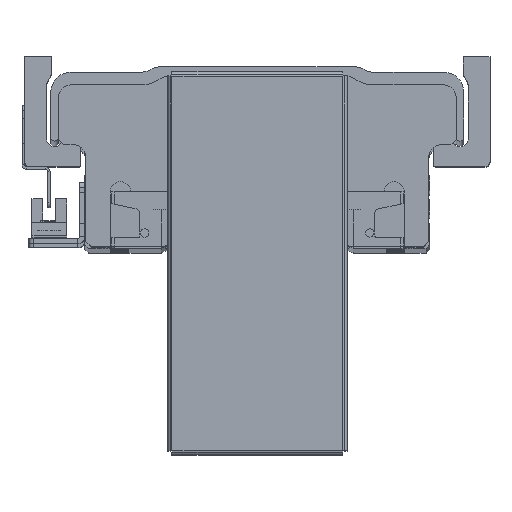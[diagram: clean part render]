
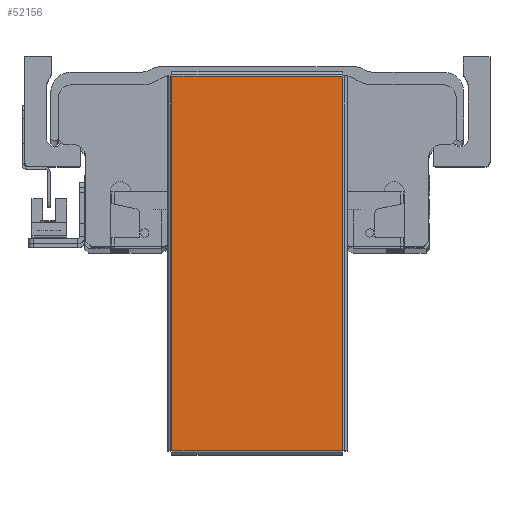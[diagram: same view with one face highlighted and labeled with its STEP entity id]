
A CAD part, top view. The second image highlights one B-rep face of the part: STEP entity #52156.
In plain terms, the highlighted planar face has unit normal (0, 0, 1) as drawn and (0, -1, 0) by its records, which use the part's own axes.
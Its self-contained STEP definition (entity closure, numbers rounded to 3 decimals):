
#3171 = AXIS2_PLACEMENT_3D ( 'NONE', #37420, #37428, #37445 ) ;
#8237 = CARTESIAN_POINT ( 'NONE',  ( 73.263, -1., -33.363 ) ) ;
#8245 = CARTESIAN_POINT ( 'NONE',  ( -73.263, -1., 33.363 ) ) ;
#8248 = CARTESIAN_POINT ( 'NONE',  ( 73.263, -1., 33.363 ) ) ;
#8264 = CARTESIAN_POINT ( 'NONE',  ( -73.263, -1., -33.363 ) ) ;
#19710 = EDGE_LOOP ( 'NONE', ( #33146, #33127, #33109, #33215 ) ) ;
#19838 = VERTEX_POINT ( 'NONE', #8264 ) ;
#19844 = VERTEX_POINT ( 'NONE', #8237 ) ;
#19879 = VERTEX_POINT ( 'NONE', #8245 ) ;
#19889 = VERTEX_POINT ( 'NONE', #8248 ) ;
#23672 = FACE_OUTER_BOUND ( 'NONE', #19710, .T. ) ;
#33109 = ORIENTED_EDGE ( 'NONE', *, *, #38259, .T. ) ;
#33127 = ORIENTED_EDGE ( 'NONE', *, *, #38257, .T. ) ;
#33146 = ORIENTED_EDGE ( 'NONE', *, *, #38325, .T. ) ;
#33215 = ORIENTED_EDGE ( 'NONE', *, *, #38366, .T. ) ;
#36144 = DIRECTION ( 'NONE',  ( 0., 0., -1. ) ) ;
#36152 = DIRECTION ( 'NONE',  ( 1., 0., 0. ) ) ;
#36167 = CARTESIAN_POINT ( 'NONE',  ( -73.263, -1., 33.393 ) ) ;
#36173 = CARTESIAN_POINT ( 'NONE',  ( -73.293, -1., -33.363 ) ) ;
#36227 = CARTESIAN_POINT ( 'NONE',  ( 73.293, -1., 33.363 ) ) ;
#36230 = DIRECTION ( 'NONE',  ( -1., 0., 0. ) ) ;
#36297 = CARTESIAN_POINT ( 'NONE',  ( 73.263, -1., -33.393 ) ) ;
#36304 = DIRECTION ( 'NONE',  ( 0., 0., 1. ) ) ;
#37420 = CARTESIAN_POINT ( 'NONE',  ( 0., -1., 0. ) ) ;
#37425 = PLANE ( 'NONE',  #3171 ) ;
#37428 = DIRECTION ( 'NONE',  ( 0., 1., 0. ) ) ;
#37445 = DIRECTION ( 'NONE',  ( 0., 0., 1. ) ) ;
#38257 = EDGE_CURVE ( 'NONE', #19879, #19838, #41830, .T. ) ;
#38259 = EDGE_CURVE ( 'NONE', #19838, #19844, #41838, .T. ) ;
#38325 = EDGE_CURVE ( 'NONE', #19889, #19879, #41813, .T. ) ;
#38366 = EDGE_CURVE ( 'NONE', #19844, #19889, #41938, .T. ) ;
#41786 = VECTOR ( 'NONE', #36144, 1000. ) ;
#41813 = LINE ( 'NONE', #36227, #41816 ) ;
#41816 = VECTOR ( 'NONE', #36230, 1000. ) ;
#41821 = VECTOR ( 'NONE', #36152, 1000. ) ;
#41830 = LINE ( 'NONE', #36167, #41786 ) ;
#41838 = LINE ( 'NONE', #36173, #41821 ) ;
#41938 = LINE ( 'NONE', #36297, #41940 ) ;
#41940 = VECTOR ( 'NONE', #36304, 1000. ) ;
#52156 = ADVANCED_FACE ( 'NONE', ( #23672 ), #37425, .F. ) ;
